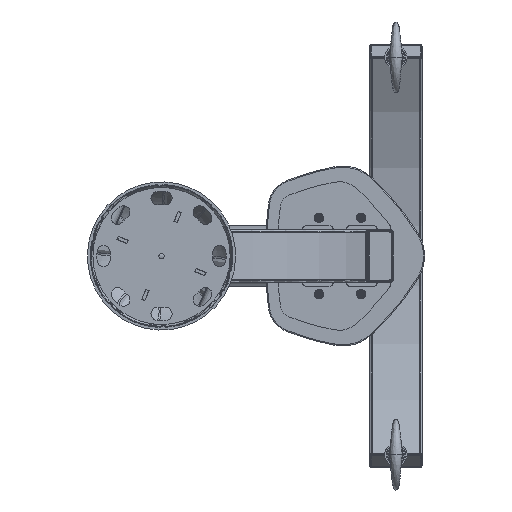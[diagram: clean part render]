
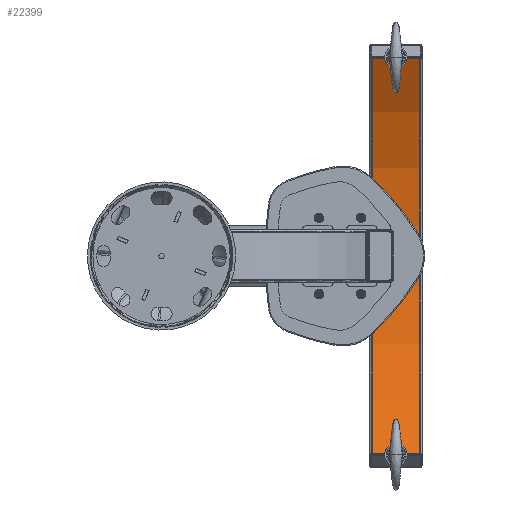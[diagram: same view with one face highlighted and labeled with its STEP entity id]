
A CAD part, front view. The second image highlights one B-rep face of the part: STEP entity #22399.
In plain terms, the highlighted cylindrical face has radius 725 mm (diameter 1450 mm), a partial arc.
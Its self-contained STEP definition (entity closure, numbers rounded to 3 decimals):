
#1720 = AXIS2_PLACEMENT_3D ( 'NONE', #42432, #88903, #7561 ) ;
#7561 = DIRECTION ( 'NONE',  ( -1., 0., 0. ) ) ;
#12694 = CYLINDRICAL_SURFACE ( 'NONE', #166180, 725. ) ;
#13103 = VECTOR ( 'NONE', #71928, 1000. ) ;
#15478 = EDGE_CURVE ( 'NONE', #97687, #149414, #99875, .T. ) ;
#18332 = CARTESIAN_POINT ( 'NONE',  ( 373.951, 621.116, 45. ) ) ;
#22399 = ADVANCED_FACE ( 'NONE', ( #43637 ), #12694, .F. ) ;
#32844 = CIRCLE ( 'NONE', #60703, 725. ) ;
#42432 = CARTESIAN_POINT ( 'NONE',  ( 0., 0., 45. ) ) ;
#43597 = VERTEX_POINT ( 'NONE', #169700 ) ;
#43637 = FACE_OUTER_BOUND ( 'NONE', #97400, .T. ) ;
#44321 = CARTESIAN_POINT ( 'NONE',  ( 0., 0., -45. ) ) ;
#44913 = DIRECTION ( 'NONE',  ( 0., 0., -1. ) ) ;
#46505 = EDGE_CURVE ( 'NONE', #43597, #136514, #88164, .T. ) ;
#60703 = AXIS2_PLACEMENT_3D ( 'NONE', #44321, #123967, #109542 ) ;
#67975 = ORIENTED_EDGE ( 'NONE', *, *, #72586, .T. ) ;
#68951 = CARTESIAN_POINT ( 'NONE',  ( 373.951, 621.116, -216.752 ) ) ;
#71928 = DIRECTION ( 'NONE',  ( 0., 0., -1. ) ) ;
#72586 = EDGE_CURVE ( 'NONE', #149414, #43597, #32844, .T. ) ;
#76502 = ORIENTED_EDGE ( 'NONE', *, *, #46505, .T. ) ;
#83779 = CIRCLE ( 'NONE', #1720, 725. ) ;
#84162 = DIRECTION ( 'NONE',  ( -1., 0., 0. ) ) ;
#88164 = LINE ( 'NONE', #68951, #112812 ) ;
#88903 = DIRECTION ( 'NONE',  ( 0., 0., -1. ) ) ;
#94961 = CARTESIAN_POINT ( 'NONE',  ( -373.951, 621.116, -45. ) ) ;
#97112 = ORIENTED_EDGE ( 'NONE', *, *, #149527, .F. ) ;
#97400 = EDGE_LOOP ( 'NONE', ( #97112, #126511, #67975, #76502 ) ) ;
#97687 = VERTEX_POINT ( 'NONE', #167714 ) ;
#99875 = LINE ( 'NONE', #151034, #13103 ) ;
#109542 = DIRECTION ( 'NONE',  ( -1., 0., 0. ) ) ;
#112812 = VECTOR ( 'NONE', #120923, 1000. ) ;
#120923 = DIRECTION ( 'NONE',  ( 0., 0., 1. ) ) ;
#123967 = DIRECTION ( 'NONE',  ( 0., 0., -1. ) ) ;
#126511 = ORIENTED_EDGE ( 'NONE', *, *, #15478, .T. ) ;
#136514 = VERTEX_POINT ( 'NONE', #18332 ) ;
#148265 = CARTESIAN_POINT ( 'NONE',  ( 0., 0., -216.752 ) ) ;
#149414 = VERTEX_POINT ( 'NONE', #94961 ) ;
#149527 = EDGE_CURVE ( 'NONE', #97687, #136514, #83779, .T. ) ;
#151034 = CARTESIAN_POINT ( 'NONE',  ( -373.951, 621.116, -216.752 ) ) ;
#166180 = AXIS2_PLACEMENT_3D ( 'NONE', #148265, #44913, #84162 ) ;
#167714 = CARTESIAN_POINT ( 'NONE',  ( -373.951, 621.116, 45. ) ) ;
#169700 = CARTESIAN_POINT ( 'NONE',  ( 373.951, 621.116, -45. ) ) ;
